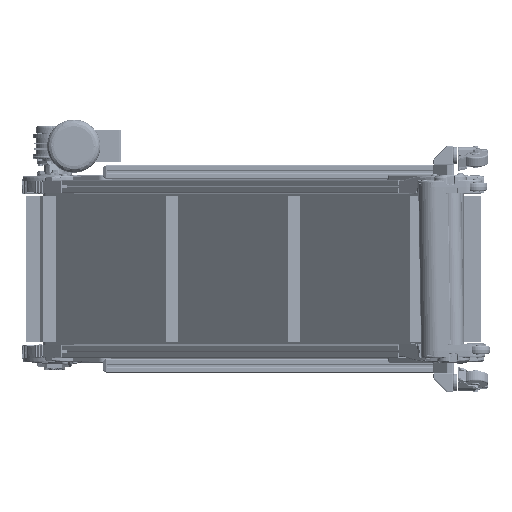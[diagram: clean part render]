
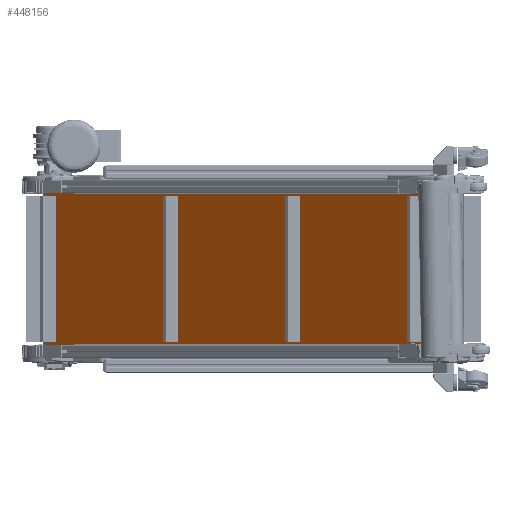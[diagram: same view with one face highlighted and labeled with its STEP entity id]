
A CAD part, left-side view. The second image highlights one B-rep face of the part: STEP entity #448156.
In plain terms, the highlighted planar face has unit normal (-0.707, 0.707, 0).
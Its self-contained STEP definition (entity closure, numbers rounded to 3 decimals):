
#1505 = EDGE_CURVE ( 'NONE', #257029, #315224, #548626, .T. ) ;
#2308 = DIRECTION ( 'NONE',  ( 0.707, -0.707, 0. ) ) ;
#26045 = CARTESIAN_POINT ( 'NONE',  ( 344.139, 33.151, -196.5 ) ) ;
#39733 = CARTESIAN_POINT ( 'NONE',  ( 344.139, 33.151, 196.5 ) ) ;
#41334 = PLANE ( 'NONE',  #453212 ) ;
#89162 = CARTESIAN_POINT ( 'NONE',  ( 344.139, 33.151, 196.5 ) ) ;
#115020 = ORIENTED_EDGE ( 'NONE', *, *, #243670, .T. ) ;
#131169 = CARTESIAN_POINT ( 'NONE',  ( 1248.733, 937.745, -196.5 ) ) ;
#158523 = DIRECTION ( 'NONE',  ( -0.707, -0.707, 0. ) ) ;
#175508 = VECTOR ( 'NONE', #209488, 1000. ) ;
#181699 = VERTEX_POINT ( 'NONE', #272015 ) ;
#209488 = DIRECTION ( 'NONE',  ( 0., 0., -1. ) ) ;
#211072 = CARTESIAN_POINT ( 'NONE',  ( 344.139, 33.151, 196.5 ) ) ;
#214964 = DIRECTION ( 'NONE',  ( -0.707, -0.707, 0. ) ) ;
#216035 = LINE ( 'NONE', #338397, #252275 ) ;
#230955 = EDGE_LOOP ( 'NONE', ( #115020, #540559, #328636, #522729 ) ) ;
#243670 = EDGE_CURVE ( 'NONE', #387218, #315224, #309351, .T. ) ;
#250225 = VECTOR ( 'NONE', #391851, 1000. ) ;
#252275 = VECTOR ( 'NONE', #158523, 1000. ) ;
#257029 = VERTEX_POINT ( 'NONE', #89162 ) ;
#272015 = CARTESIAN_POINT ( 'NONE',  ( 1248.733, 937.745, 196.5 ) ) ;
#294473 = FACE_OUTER_BOUND ( 'NONE', #230955, .T. ) ;
#309351 = LINE ( 'NONE', #437197, #324130 ) ;
#315224 = VERTEX_POINT ( 'NONE', #26045 ) ;
#324130 = VECTOR ( 'NONE', #214964, 1000. ) ;
#326778 = EDGE_CURVE ( 'NONE', #181699, #257029, #216035, .T. ) ;
#328636 = ORIENTED_EDGE ( 'NONE', *, *, #326778, .F. ) ;
#338397 = CARTESIAN_POINT ( 'NONE',  ( 1199.235, 888.247, 196.5 ) ) ;
#339339 = EDGE_CURVE ( 'NONE', #181699, #387218, #493876, .T. ) ;
#350157 = CARTESIAN_POINT ( 'NONE',  ( 1248.733, 937.745, 196.5 ) ) ;
#387218 = VERTEX_POINT ( 'NONE', #131169 ) ;
#388801 = DIRECTION ( 'NONE',  ( 0.707, 0.707, 0. ) ) ;
#391851 = DIRECTION ( 'NONE',  ( 0., 0., -1. ) ) ;
#437197 = CARTESIAN_POINT ( 'NONE',  ( 344.139, 33.151, -196.5 ) ) ;
#448156 = ADVANCED_FACE ( 'NONE', ( #294473 ), #41334, .F. ) ;
#453212 = AXIS2_PLACEMENT_3D ( 'NONE', #211072, #2308, #388801 ) ;
#493876 = LINE ( 'NONE', #350157, #250225 ) ;
#522729 = ORIENTED_EDGE ( 'NONE', *, *, #339339, .T. ) ;
#540559 = ORIENTED_EDGE ( 'NONE', *, *, #1505, .F. ) ;
#548626 = LINE ( 'NONE', #39733, #175508 ) ;
